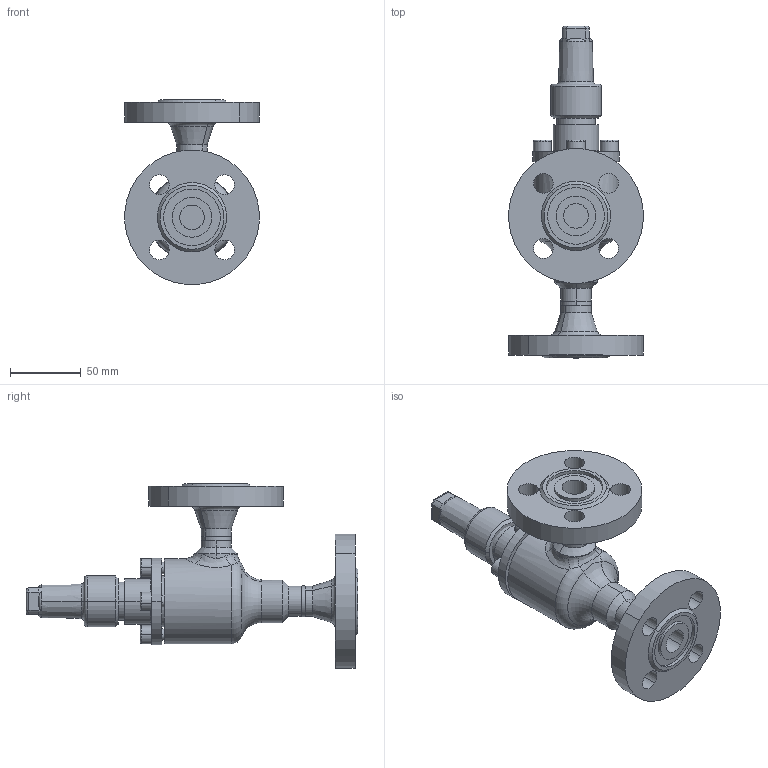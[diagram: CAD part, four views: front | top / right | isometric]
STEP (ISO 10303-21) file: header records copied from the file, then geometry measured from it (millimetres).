
FILE_DESCRIPTION (( 'STEP AP214' ), '1' );
FILE_NAME ('AVB16420D10-DN015_DIN-FL-N_PS40.STEP', '2006-04-27T12:28:17', ( 'Herr Grams' ), ( 'AWP GmbH' ), 'SwSTEP 2.0', 'SolidWorks 2002296', '' );
FILE_SCHEMA (( 'AUTOMOTIVE_DESIGN' ));
Length unit declared in the file: millimetre
Products named in the file (10): AVB16420D10-DN015_DIN-FL-N_PS40; Gehäuse-kpl16420-DN015_DIN_PS40_Standard; Gehäuse16400-DN015_Standard; Flansch-DIN2635-Nut_PS40_DIN-Flansch-DN015_PS40-Nut; bead16420-Geh-015-1_Standard; bead16420-Geh-015-2_Standard; AVB16300K10_Deck+Schr-DN10-20_Standard; Deckel16300K10-DN10-20_Standard; Zylinderschraube-DIN912_M 8x 16; Kappe96300E10_DN6-20_Standard
Assembly tree (13 placements, depth 3):
  AVB16420D10-DN015_DIN-FL-N_PS40
    AVB16300K10_Deck+Schr-DN10-20_Standard
      Deckel16300K10-DN10-20_Standard
      Zylinderschraube-DIN912_M 8x 16  x4
    Kappe96300E10_DN6-20_Standard
    Gehäuse-kpl16420-DN015_DIN_PS40_Standard
      Flansch-DIN2635-Nut_PS40_DIN-Flansch-DN015_PS40-Nut  x2
      Gehäuse16400-DN015_Standard
      bead16420-Geh-015-1_Standard
      bead16420-Geh-015-2_Standard
Bounding box: 94.64 x 234 x 130.32 mm (x, y, z)
Volume: 442964 mm3; surface area: 99340.2 mm2
Topology: 11 solids, 11 shells, 298 faces, 654 edges, 408 vertices
Faces by surface type: cylinder 121, plane 85, cone 46, torus 30, bspline 16
Entity records: 18541 total; most frequent: CARTESIAN_POINT 13067, DIRECTION 1064, ORIENTED_EDGE 936, EDGE_CURVE 468, AXIS2_PLACEMENT_3D 455, VERTEX_POINT 290, EDGE_LOOP 254, CIRCLE 241
